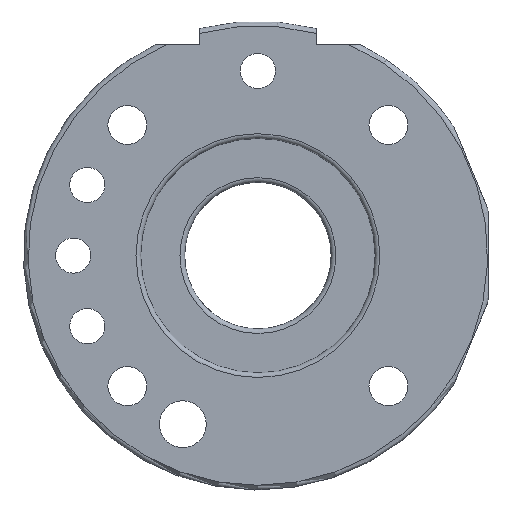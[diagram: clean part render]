
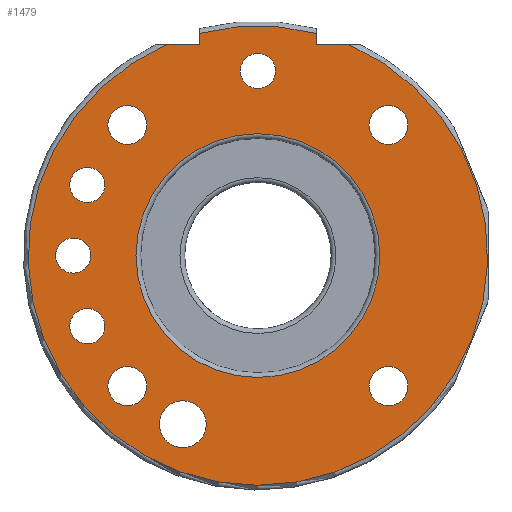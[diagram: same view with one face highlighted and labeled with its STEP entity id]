
A CAD part, front view. The second image highlights one B-rep face of the part: STEP entity #1479.
In plain terms, the highlighted planar face has unit normal (0, -1, 0).
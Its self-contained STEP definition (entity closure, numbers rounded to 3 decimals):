
#20=FACE_BOUND('',#215,.T.);
#21=FACE_BOUND('',#216,.T.);
#22=FACE_BOUND('',#217,.T.);
#23=FACE_BOUND('',#218,.T.);
#24=FACE_BOUND('',#219,.T.);
#25=FACE_BOUND('',#220,.T.);
#26=FACE_BOUND('',#221,.T.);
#27=FACE_BOUND('',#222,.T.);
#28=FACE_BOUND('',#223,.T.);
#29=FACE_BOUND('',#224,.T.);
#57=PLANE('',#1594);
#143=FACE_OUTER_BOUND('',#214,.T.);
#214=EDGE_LOOP('',(#1002,#1003,#1004,#1005,#1006,#1007));
#215=EDGE_LOOP('',(#1008));
#216=EDGE_LOOP('',(#1009));
#217=EDGE_LOOP('',(#1010));
#218=EDGE_LOOP('',(#1011));
#219=EDGE_LOOP('',(#1012));
#220=EDGE_LOOP('',(#1013));
#221=EDGE_LOOP('',(#1014));
#222=EDGE_LOOP('',(#1015));
#223=EDGE_LOOP('',(#1016));
#224=EDGE_LOOP('',(#1017,#1018));
#319=LINE('',#2408,#391);
#320=LINE('',#2412,#392);
#321=LINE('',#2414,#393);
#322=LINE('',#2417,#394);
#391=VECTOR('',#1822,10.);
#392=VECTOR('',#1825,10.);
#393=VECTOR('',#1826,10.);
#394=VECTOR('',#1829,10.);
#450=CIRCLE('',#1560,4.);
#453=CIRCLE('',#1564,3.);
#467=CIRCLE('',#1588,20.8);
#472=CIRCLE('',#1593,20.8);
#473=CIRCLE('',#1595,39.2);
#474=CIRCLE('',#1596,39.2);
#475=CIRCLE('',#1597,3.);
#476=CIRCLE('',#1598,3.);
#477=CIRCLE('',#1599,3.);
#478=CIRCLE('',#1600,3.324);
#479=CIRCLE('',#1601,3.324);
#480=CIRCLE('',#1602,3.324);
#481=CIRCLE('',#1603,3.324);
#552=VERTEX_POINT('',#2153);
#555=VERTEX_POINT('',#2161);
#588=VERTEX_POINT('',#2394);
#589=VERTEX_POINT('',#2395);
#593=VERTEX_POINT('',#2406);
#594=VERTEX_POINT('',#2407);
#595=VERTEX_POINT('',#2409);
#596=VERTEX_POINT('',#2411);
#597=VERTEX_POINT('',#2413);
#598=VERTEX_POINT('',#2415);
#599=VERTEX_POINT('',#2418);
#600=VERTEX_POINT('',#2420);
#601=VERTEX_POINT('',#2422);
#602=VERTEX_POINT('',#2424);
#603=VERTEX_POINT('',#2426);
#604=VERTEX_POINT('',#2428);
#605=VERTEX_POINT('',#2430);
#711=EDGE_CURVE('',#552,#552,#450,.T.);
#715=EDGE_CURVE('',#555,#555,#453,.T.);
#756=EDGE_CURVE('',#588,#589,#467,.T.);
#761=EDGE_CURVE('',#589,#588,#472,.T.);
#762=EDGE_CURVE('',#593,#594,#319,.T.);
#763=EDGE_CURVE('',#595,#594,#473,.T.);
#764=EDGE_CURVE('',#595,#596,#320,.T.);
#765=EDGE_CURVE('',#596,#597,#321,.T.);
#766=EDGE_CURVE('',#598,#597,#474,.T.);
#767=EDGE_CURVE('',#598,#593,#322,.T.);
#768=EDGE_CURVE('',#599,#599,#475,.T.);
#769=EDGE_CURVE('',#600,#600,#476,.T.);
#770=EDGE_CURVE('',#601,#601,#477,.T.);
#771=EDGE_CURVE('',#602,#602,#478,.T.);
#772=EDGE_CURVE('',#603,#603,#479,.T.);
#773=EDGE_CURVE('',#604,#604,#480,.T.);
#774=EDGE_CURVE('',#605,#605,#481,.T.);
#1002=ORIENTED_EDGE('',*,*,#762,.T.);
#1003=ORIENTED_EDGE('',*,*,#763,.F.);
#1004=ORIENTED_EDGE('',*,*,#764,.T.);
#1005=ORIENTED_EDGE('',*,*,#765,.T.);
#1006=ORIENTED_EDGE('',*,*,#766,.F.);
#1007=ORIENTED_EDGE('',*,*,#767,.T.);
#1008=ORIENTED_EDGE('',*,*,#711,.T.);
#1009=ORIENTED_EDGE('',*,*,#715,.T.);
#1010=ORIENTED_EDGE('',*,*,#768,.T.);
#1011=ORIENTED_EDGE('',*,*,#769,.T.);
#1012=ORIENTED_EDGE('',*,*,#770,.T.);
#1013=ORIENTED_EDGE('',*,*,#771,.T.);
#1014=ORIENTED_EDGE('',*,*,#772,.T.);
#1015=ORIENTED_EDGE('',*,*,#773,.T.);
#1016=ORIENTED_EDGE('',*,*,#774,.T.);
#1017=ORIENTED_EDGE('',*,*,#756,.F.);
#1018=ORIENTED_EDGE('',*,*,#761,.F.);
#1479=ADVANCED_FACE('',(#143,#20,#21,#22,#23,#24,#25,#26,#27,#28,#29),#57,
 .T.);
#1560=AXIS2_PLACEMENT_3D('',#2155,#1738,#1739);
#1564=AXIS2_PLACEMENT_3D('',#2163,#1747,#1748);
#1588=AXIS2_PLACEMENT_3D('',#2396,#1808,#1809);
#1593=AXIS2_PLACEMENT_3D('',#2404,#1818,#1819);
#1594=AXIS2_PLACEMENT_3D('',#2405,#1820,#1821);
#1595=AXIS2_PLACEMENT_3D('',#2410,#1823,#1824);
#1596=AXIS2_PLACEMENT_3D('',#2416,#1827,#1828);
#1597=AXIS2_PLACEMENT_3D('',#2419,#1830,#1831);
#1598=AXIS2_PLACEMENT_3D('',#2421,#1832,#1833);
#1599=AXIS2_PLACEMENT_3D('',#2423,#1834,#1835);
#1600=AXIS2_PLACEMENT_3D('',#2425,#1836,#1837);
#1601=AXIS2_PLACEMENT_3D('',#2427,#1838,#1839);
#1602=AXIS2_PLACEMENT_3D('',#2429,#1840,#1841);
#1603=AXIS2_PLACEMENT_3D('',#2431,#1842,#1843);
#1738=DIRECTION('center_axis',(0.,1.,0.));
#1739=DIRECTION('ref_axis',(1.,0.,0.));
#1747=DIRECTION('center_axis',(0.,1.,0.));
#1748=DIRECTION('ref_axis',(1.,0.,0.));
#1808=DIRECTION('center_axis',(0.,-1.,0.));
#1809=DIRECTION('ref_axis',(1.,0.,0.));
#1818=DIRECTION('center_axis',(0.,-1.,0.));
#1819=DIRECTION('ref_axis',(1.,0.,0.));
#1820=DIRECTION('center_axis',(0.,-1.,0.));
#1821=DIRECTION('ref_axis',(0.,0.,-1.));
#1822=DIRECTION('',(0.,0.,1.));
#1823=DIRECTION('center_axis',(0.,1.,0.));
#1824=DIRECTION('ref_axis',(1.,0.,0.));
#1825=DIRECTION('',(0.,0.,-1.));
#1826=DIRECTION('',(-1.,0.,0.));
#1827=DIRECTION('center_axis',(0.,1.,0.));
#1828=DIRECTION('ref_axis',(1.,0.,0.));
#1829=DIRECTION('',(-1.,0.,0.));
#1830=DIRECTION('center_axis',(0.,1.,0.));
#1831=DIRECTION('ref_axis',(1.,0.,0.));
#1832=DIRECTION('center_axis',(0.,1.,0.));
#1833=DIRECTION('ref_axis',(1.,0.,0.));
#1834=DIRECTION('center_axis',(0.,1.,0.));
#1835=DIRECTION('ref_axis',(1.,0.,0.));
#1836=DIRECTION('center_axis',(0.,1.,0.));
#1837=DIRECTION('ref_axis',(1.,0.,0.));
#1838=DIRECTION('center_axis',(0.,1.,0.));
#1839=DIRECTION('ref_axis',(1.,0.,0.));
#1840=DIRECTION('center_axis',(0.,1.,0.));
#1841=DIRECTION('ref_axis',(1.,0.,0.));
#1842=DIRECTION('center_axis',(0.,1.,0.));
#1843=DIRECTION('ref_axis',(1.,0.,0.));
#2153=CARTESIAN_POINT('',(-16.812,0.,-28.777));
#2155=CARTESIAN_POINT('Origin',(-12.812,0.,-28.777));
#2161=CARTESIAN_POINT('',(-3.,0.,31.5));
#2163=CARTESIAN_POINT('Origin',(0.,0.,
31.5));
#2394=CARTESIAN_POINT('',(-20.8,0.,0.));
#2395=CARTESIAN_POINT('',(0.,0.,-20.8));
#2396=CARTESIAN_POINT('Origin',(0.,0.,
0.));
#2404=CARTESIAN_POINT('Origin',(0.,0.,
0.));
#2405=CARTESIAN_POINT('Origin',(-30.,0.,0.));
#2406=CARTESIAN_POINT('',(10.,0.,36.));
#2407=CARTESIAN_POINT('',(10.,0.,37.903));
#2408=CARTESIAN_POINT('',(10.,0.,20.));
#2409=CARTESIAN_POINT('',(-10.,0.,37.903));
#2410=CARTESIAN_POINT('Origin',(0.,0.,
0.));
#2411=CARTESIAN_POINT('',(-10.,0.,36.));
#2412=CARTESIAN_POINT('',(-10.,0.,20.));
#2413=CARTESIAN_POINT('',(-15.513,0.,36.));
#2414=CARTESIAN_POINT('',(-23.892,0.,36.));
#2415=CARTESIAN_POINT('',(15.513,0.,36.));
#2416=CARTESIAN_POINT('Origin',(0.,0.,
0.));
#2417=CARTESIAN_POINT('',(-6.108,0.,36.));
#2418=CARTESIAN_POINT('',(-34.5,0.,0.));
#2419=CARTESIAN_POINT('Origin',(-31.5,0.,0.));
#2420=CARTESIAN_POINT('',(-32.102,0.,12.055));
#2421=CARTESIAN_POINT('Origin',(-29.102,0.,12.055));
#2422=CARTESIAN_POINT('',(-32.102,0.,-12.055));
#2423=CARTESIAN_POINT('Origin',(-29.102,0.,-12.055));
#2424=CARTESIAN_POINT('',(18.95,0.,-22.274));
#2425=CARTESIAN_POINT('Origin',(22.274,0.,-22.274));
#2426=CARTESIAN_POINT('',(-25.597,0.,-22.274));
#2427=CARTESIAN_POINT('Origin',(-22.274,0.,-22.274));
#2428=CARTESIAN_POINT('',(-25.597,0.,22.274));
#2429=CARTESIAN_POINT('Origin',(-22.274,0.,22.274));
#2430=CARTESIAN_POINT('',(18.95,0.,22.274));
#2431=CARTESIAN_POINT('Origin',(22.274,0.,22.274));
